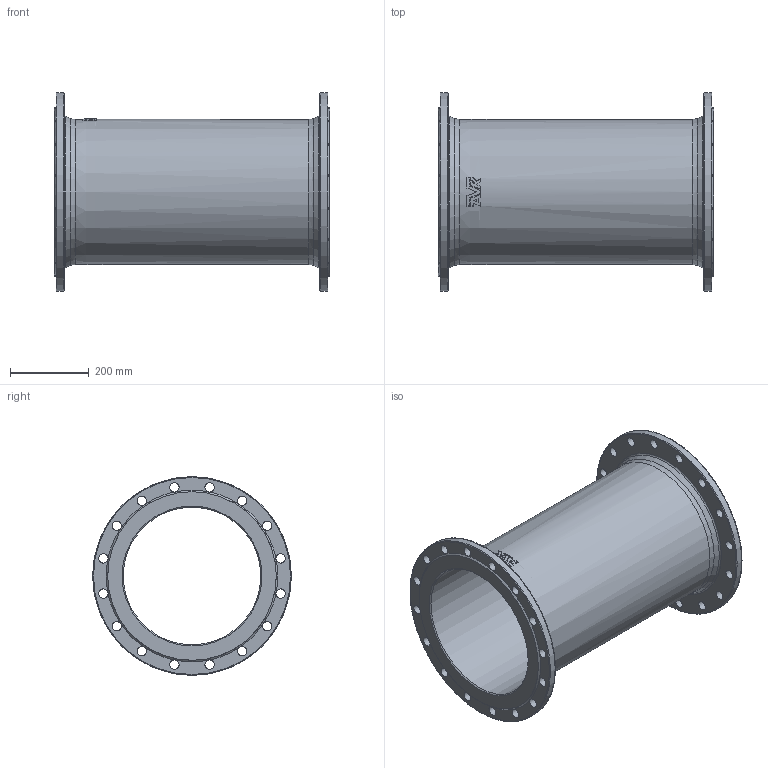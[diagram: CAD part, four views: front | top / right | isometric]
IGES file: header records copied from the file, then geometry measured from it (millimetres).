
Start section: SolidWorks IGES file using analytic representation for surfaces
Global section: file name: \\avksan2\techshare\PBM outline export from Enovia\O_712_5010_DN350_0X_REV01.igs; native system: SolidWorks 2019; preprocessor: SolidWorks 2019; author: pbm; date: 211203.105526; units: millimetre
Bounding box: 700 x 505 x 505 mm (x, y, z)
Surface area: 1981486.2 mm2 (no closed solid volume)
Topology: 0 solids, 0 shells, 97 faces, 612 edges, 561 vertices
Faces by surface type: revolution 54, bspline 43
